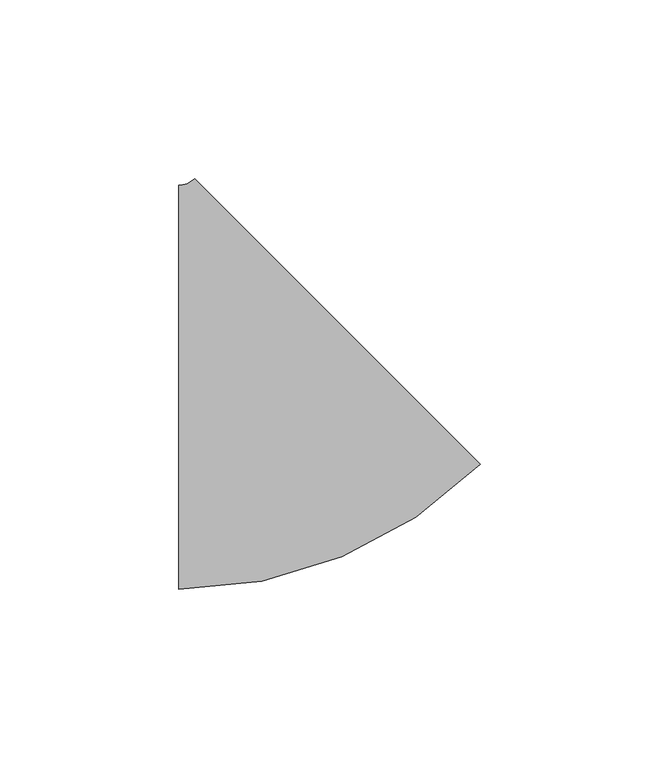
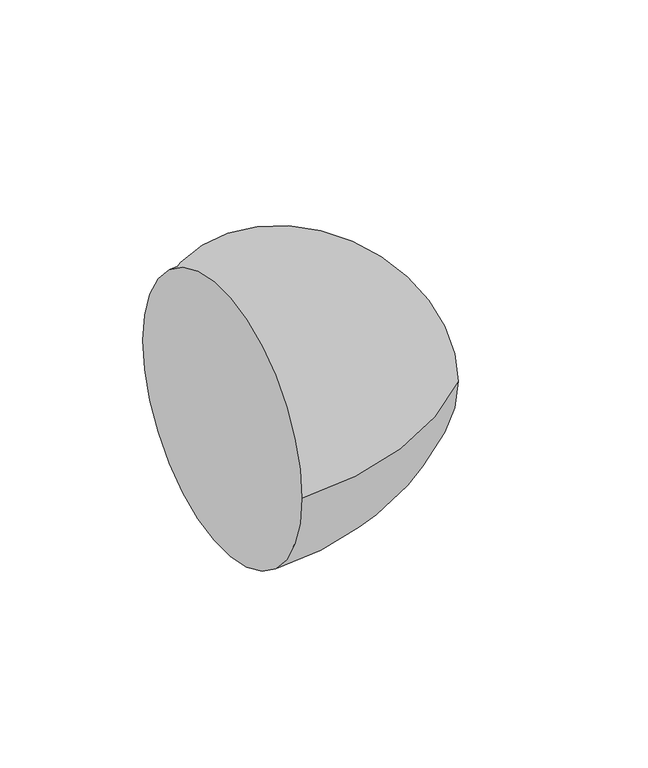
"""IFC4 building model written with IfcOpenShell, lengths in millimetres: pipe fitting geometry, M_Codo - Genérico : Estándar."""

from ifc_helpers import new_model, si_unit, point, frame, origin, place, context, project, spatial, circle_curve, ellipse_curve, trimmed, source, transform, mapped, element, save
from ifc_brep_helpers import plane_surface, revolved_surface, advanced_brep


def pipe_fitting_7661399a(model_context):
    return source(origin(), model_context, "Body", "AdvancedBrep", [
        advanced_brep(
        [(-26.0690287, -56.5875, 0.0), (-26.0690287, 56.5875, 0.0), (58.4466773, -21.58067, 0.0), (-21.578966, 58.4473065, 0.0)],
        [
            (0, 1, circle_curve(frame((-26.0690287, 0.0, 0.0), z_axis=(-1.0, 0.0, 0.0), x_axis=(0.0, 1.0, 0.0)), 56.5875)),
            (1, 0, circle_curve(frame((-26.0690287, 0.0, 0.0), z_axis=(-1.0, 0.0, 0.0), x_axis=(0.0, 1.0, 0.0)), 56.5875)),
            (2, 3, circle_curve(frame((18.4338556, 18.4333182, 0.0), z_axis=(0.7071170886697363, 0.7070964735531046, 0.0), x_axis=(-0.7070964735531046, 0.7071170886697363, 0.0)), 56.5875)),
            (3, 2, circle_curve(frame((18.4338556, 18.4333182, 0.0), z_axis=(0.7071170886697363, 0.7070964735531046, 0.0), x_axis=(-0.7070964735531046, 0.7071170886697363, 0.0)), 56.5875)),
            (3, 1, circle_curve(frame((-26.0690287, 62.9375, 0.0), z_axis=(0.0, 0.0, -1.0), x_axis=(0.0, -1.0, 0.0)), 6.35)),
            (0, 2, circle_curve(frame((-26.0690287, 62.9375, 0.0), z_axis=(0.0, 0.0, 1.0), x_axis=(0.0, -1.0, 0.0)), 119.525)),
        ],
        [
            plane_surface(frame((-26.0690287, 0.0, 0.0), z_axis=(-1.0, 0.0, 0.0), x_axis=(0.0, 0.0, 1.0))),
            plane_surface(frame((18.4338556, 18.4333182, 0.0), z_axis=(0.7071170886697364, 0.7070964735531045, 0.0), x_axis=(0.0, 0.0, 1.0))),
            revolved_surface(trimmed(ellipse_curve(frame((-26.0690287, 0.0, 0.0), z_axis=(-1.0, 0.0, 0.0), x_axis=(0.0, 1.0, 0.0)), 56.5875, 56.5875), [point((-26.0690287, -56.5875, 0.0))], [point((-26.0690287, 56.5875, 0.0))], True, "CARTESIAN"), (-26.0690287, 62.9375, 0.0), (0.0, 0.0, 1.0)),
            revolved_surface(trimmed(ellipse_curve(frame((-26.0690287, 0.0, 0.0), z_axis=(-1.0, 0.0, 0.0), x_axis=(0.0, 1.0, 0.0)), 56.5875, 56.5875), [point((-26.0690287, 56.5875, 0.0))], [point((-26.0690287, -56.5875, 0.0))], True, "CARTESIAN"), (-26.0690287, 62.9375, 0.0), (0.0, 0.0, 1.0)),
        ],
        [
            (0, [[1, 2]]),
            (1, [[3, 4]]),
            (2, [[5, -1, 6, -4]]),
            (3, [[-6, -2, -5, -3]]),
        ],
    ),
    ])


if __name__ == "__main__":
    model = new_model("IFC4")
    model_context = context("Model", 3, world=origin())
    ifc_project = project(units=[si_unit("LENGTHUNIT", "METRE", prefix="MILLI")], contexts=[model_context])
    site = spatial("IfcSite", under=ifc_project)
    building = spatial("IfcBuilding", under=site)
    placement = place(None, origin())
    pipe_fitting_shape = pipe_fitting_7661399a(model_context)
    element("IfcPipeFitting", 1, ObjectType="M_Codo - Genérico : Estándar", at=placement, inside=building, context=model_context, shape_type="MappedRepresentation", body=[
        mapped(pipe_fitting_shape, transform((0.0, 0.0, 0.0), x_axis=(1.0, 0.0, 0.0), y_axis=(0.0, 1.0, 0.0), z_axis=(0.0, 0.0, 1.0))),
    ])
    save(model, "model.ifc")
